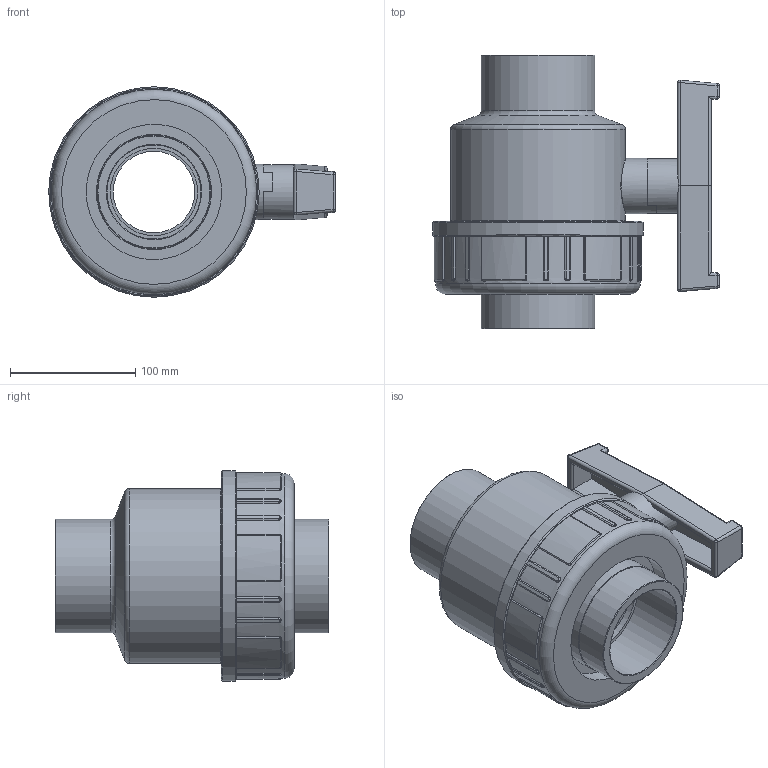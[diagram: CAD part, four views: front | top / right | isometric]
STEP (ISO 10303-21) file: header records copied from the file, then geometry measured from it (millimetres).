
FILE_DESCRIPTION(/* description */ (''),/* implementation_level */ '2;1');
FILE_NAME(/* name */ 'C:\Users\POLYPIPE\Desktop\DATASET INVENTOR\LIBRERIA EFFAST\3D_VALVOLE\3D_VALVOLE A SFERA\3D_SV\3D_BDRSVD\3D_BDRSVD0750.stp',/* time_stamp */ '2018-01-23T16:49:58+01:00',/* author */ ('POLYPIPE'),/* organization */ (''),/* preprocessor_version */ 'ST-DEVELOPER v16.1',/* originating_system */ 'Autodesk Inventor 2016',/* authorisation */ '');
FILE_SCHEMA (('CONFIG_CONTROL_DESIGN'));
Length unit declared in the file: centimetre
Products named in the file (1): 3D_BDRSVD0750
Bounding box: 228.75 x 218.3 x 168 mm (x, y, z)
Volume: 18621.4 mm3; surface area: 268959.7 mm2
Topology: 1 solids, 2 shells, 311 faces, 765 edges, 470 vertices
Faces by surface type: cylinder 112, bspline 83, plane 76, torus 21, sphere 16, cone 3
Full cylindrical faces by diameter (mm): 29.8 x1, 43.5 x1, 44.1 x1, 65 x1, 69.7 x1, 75 x2, 90.5 x2, 92 x1, 108.2 x1, 132 x1, 137 x1, 139.5 x1, 142.5 x1, 163.5 x1, 168 x1
Entity records: 31517 total; most frequent: CARTESIAN_POINT 24312, ORIENTED_EDGE 1458, DIRECTION 1337, EDGE_CURVE 729, AXIS2_PLACEMENT_3D 530, VERTEX_POINT 462, EDGE_LOOP 353, STYLED_ITEM 312
